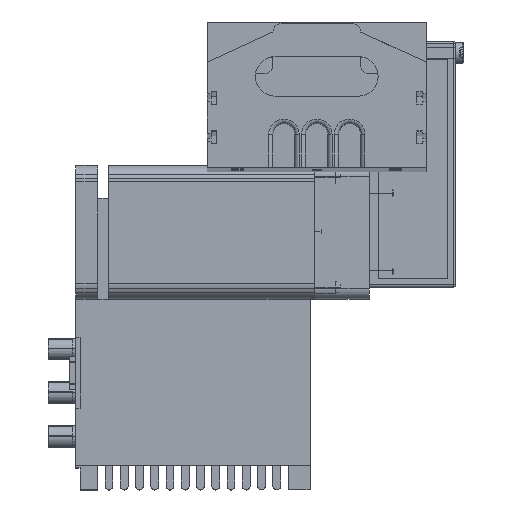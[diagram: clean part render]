
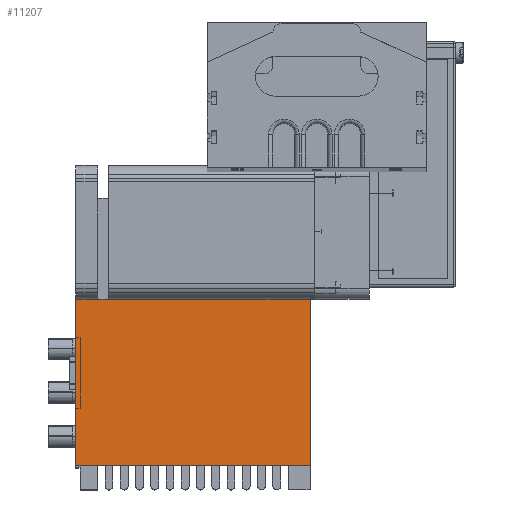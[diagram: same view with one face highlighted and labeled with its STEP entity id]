
A CAD part, top view. The second image highlights one B-rep face of the part: STEP entity #11207.
In plain terms, the highlighted planar face has unit normal (0, 0, 1) as drawn and (-1, 0, 0) by its records, which use the part's own axes.
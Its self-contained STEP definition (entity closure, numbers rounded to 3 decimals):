
#3650 = VERTEX_POINT ( 'NONE', #14203 ) ;
#6123 = EDGE_CURVE ( 'NONE', #11206, #23615, #18428, .T. ) ;
#6171 = EDGE_LOOP ( 'NONE', ( #6565, #26254, #6573, #6586, #11853, #26260 ) ) ;
#6545 = EDGE_CURVE ( 'NONE', #11206, #11376, #19287, .T. ) ;
#6565 = ORIENTED_EDGE ( 'NONE', *, *, #6545, .F. ) ;
#6567 = VERTEX_POINT ( 'NONE', #19323 ) ;
#6573 = ORIENTED_EDGE ( 'NONE', *, *, #26258, .T. ) ;
#6586 = ORIENTED_EDGE ( 'NONE', *, *, #26250, .T. ) ;
#11206 = VERTEX_POINT ( 'NONE', #21835 ) ;
#11207 = ADVANCED_FACE ( 'NONE', ( #21834 ), #21337, .F. ) ;
#11376 = VERTEX_POINT ( 'NONE', #21876 ) ;
#11694 = EDGE_CURVE ( 'NONE', #11376, #6567, #21920, .T. ) ;
#11853 = ORIENTED_EDGE ( 'NONE', *, *, #26252, .T. ) ;
#14203 = CARTESIAN_POINT ( 'NONE',  ( -119.668, 196.474, 0. ) ) ;
#18428 = LINE ( 'NONE', #18460, #18459 ) ;
#18458 = DIRECTION ( 'NONE',  ( 0., 0., -1. ) ) ;
#18459 = VECTOR ( 'NONE', #18458, 1000. ) ;
#18460 = CARTESIAN_POINT ( 'NONE',  ( -119.668, 196.474, 109. ) ) ;
#19277 = DIRECTION ( 'NONE',  ( 0., -1., 0. ) ) ;
#19278 = VECTOR ( 'NONE', #19277, 1000. ) ;
#19279 = CARTESIAN_POINT ( 'NONE',  ( -119.668, 119.474, 107. ) ) ;
#19287 = LINE ( 'NONE', #19279, #19278 ) ;
#19323 = CARTESIAN_POINT ( 'NONE',  ( -119.668, 120.474, 0. ) ) ;
#21330 = DIRECTION ( 'NONE',  ( 0., 1., 0. ) ) ;
#21337 = PLANE ( 'NONE',  #21357 ) ;
#21344 = DIRECTION ( 'NONE',  ( 1., 0., 0. ) ) ;
#21345 = CARTESIAN_POINT ( 'NONE',  ( -119.668, 120.474, 109. ) ) ;
#21357 = AXIS2_PLACEMENT_3D ( 'NONE', #21345, #21344, #21330 ) ;
#21834 = FACE_OUTER_BOUND ( 'NONE', #6171, .T. ) ;
#21835 = CARTESIAN_POINT ( 'NONE',  ( -119.668, 196.474, 107. ) ) ;
#21876 = CARTESIAN_POINT ( 'NONE',  ( -119.668, 120.474, 107. ) ) ;
#21917 = DIRECTION ( 'NONE',  ( 0., 0., -1. ) ) ;
#21918 = VECTOR ( 'NONE', #21917, 1000. ) ;
#21919 = CARTESIAN_POINT ( 'NONE',  ( -119.668, 120.474, 109. ) ) ;
#21920 = LINE ( 'NONE', #21919, #21918 ) ;
#22346 = CARTESIAN_POINT ( 'NONE',  ( -119.668, 196.474, 15. ) ) ;
#22894 = LINE ( 'NONE', #22948, #22947 ) ;
#22924 = DIRECTION ( 'NONE',  ( 0., 0., -1. ) ) ;
#22925 = VECTOR ( 'NONE', #22924, 1000. ) ;
#22926 = CARTESIAN_POINT ( 'NONE',  ( -119.668, 196.474, 109. ) ) ;
#22927 = LINE ( 'NONE', #22926, #22925 ) ;
#22936 = DIRECTION ( 'NONE',  ( 0., -1., 0. ) ) ;
#22937 = VECTOR ( 'NONE', #22936, 1000. ) ;
#22938 = CARTESIAN_POINT ( 'NONE',  ( -119.668, 120.474, 0. ) ) ;
#22940 = CARTESIAN_POINT ( 'NONE',  ( -119.668, 196.474, 10. ) ) ;
#22941 = LINE ( 'NONE', #22938, #22937 ) ;
#22946 = DIRECTION ( 'NONE',  ( 0., 0., -1. ) ) ;
#22947 = VECTOR ( 'NONE', #22946, 1000. ) ;
#22948 = CARTESIAN_POINT ( 'NONE',  ( -119.668, 196.474, 109. ) ) ;
#23615 = VERTEX_POINT ( 'NONE', #22346 ) ;
#26250 = EDGE_CURVE ( 'NONE', #26253, #3650, #22894, .T. ) ;
#26252 = EDGE_CURVE ( 'NONE', #3650, #6567, #22941, .T. ) ;
#26253 = VERTEX_POINT ( 'NONE', #22940 ) ;
#26254 = ORIENTED_EDGE ( 'NONE', *, *, #6123, .T. ) ;
#26258 = EDGE_CURVE ( 'NONE', #23615, #26253, #22927, .T. ) ;
#26260 = ORIENTED_EDGE ( 'NONE', *, *, #11694, .F. ) ;
